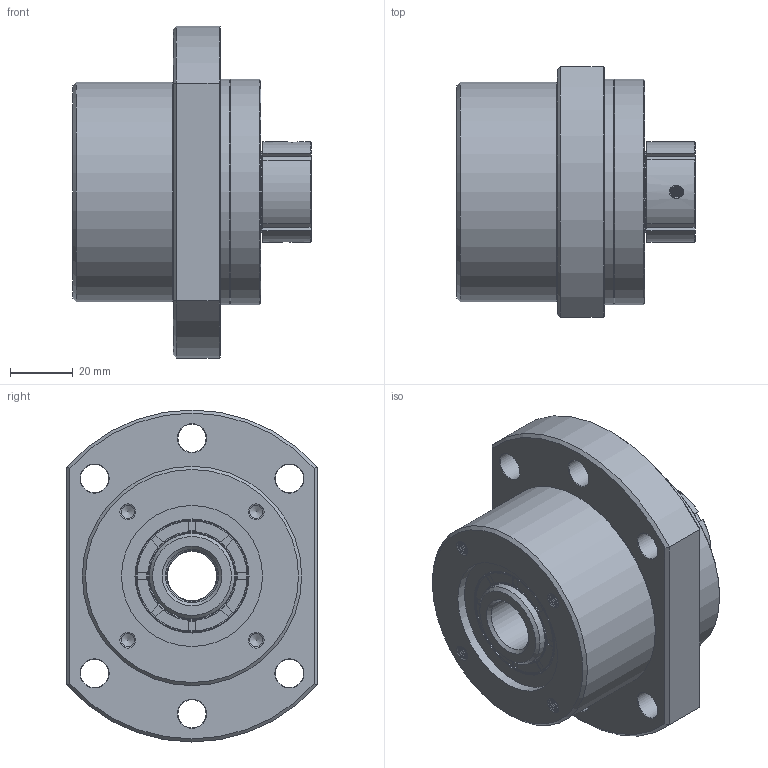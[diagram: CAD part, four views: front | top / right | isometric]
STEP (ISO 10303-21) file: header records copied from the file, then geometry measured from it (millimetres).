
FILE_DESCRIPTION(('STEP AP214'),'1');
FILE_NAME('WBK17DF (2).stp','2016-10-05T11:27:20',(' '),(' '),'Spatial InterOp 3D',' ',' ');
FILE_SCHEMA(('automotive_design'));
Length unit declared in the file: millimetre
Products named in the file (3): Assembly4; WBK17DF_1; WBK17DF
Assembly tree (2 placements, depth 2):
  Assembly4
    WBK17DF_1
    WBK17DF
Bounding box: 76 x 80 x 106 mm (x, y, z)
Volume: 243252 mm3; surface area: 63573.9 mm2
Topology: 2 solids, 25 shells, 1047 faces, 2443 edges, 1447 vertices
Faces by surface type: cone 580, plane 230, cylinder 99, torus 82, sphere 56
Full cylindrical faces by diameter (mm): 3.2 x2, 4.2 x8, 5 x6, 6 x6, 6.6 x6, 9 x6, 10 x6, 11 x6, 14 x6, 17 x4, 17.6 x1, 26 x1, 27.2 x6, 28.4 x2, 29.6 x2, 34 x6, 35.2 x2, 36.4 x3, 39.7 x1, 45 x2, 46.4 x1, 47 x4, 69.4 x1, 70 x1, 72 x2
Entity records: 44208 total; most frequent: CARTESIAN_POINT 7571, DIRECTION 4214, ORIENTED_EDGE 3304, STYLED_ITEM 2671, PRESENTATION_STYLE_ASSIGNMENT 2671, COLOUR_RGB 2671, AXIS2_PLACEMENT_3D 1923, EDGE_LOOP 1790
